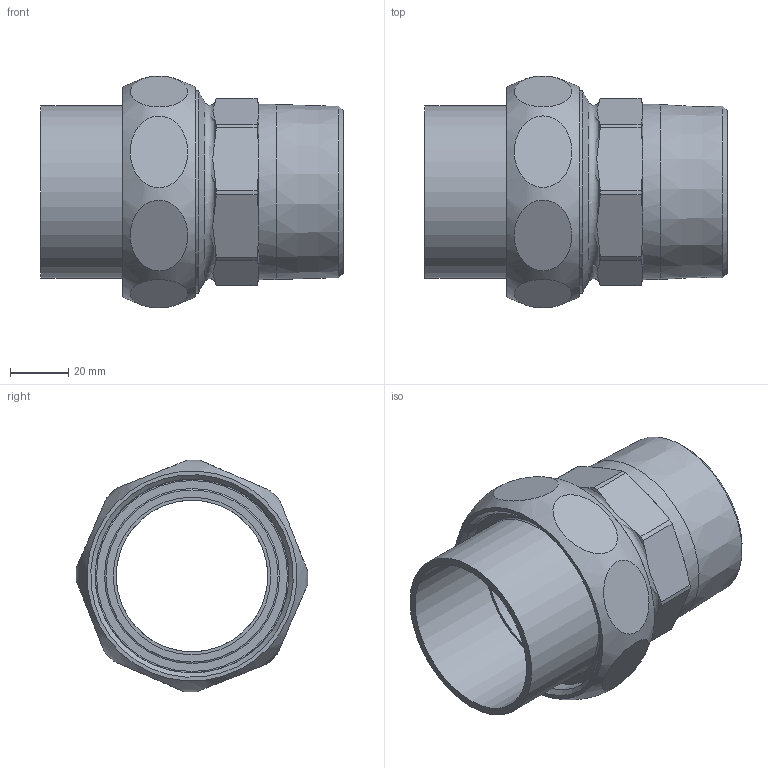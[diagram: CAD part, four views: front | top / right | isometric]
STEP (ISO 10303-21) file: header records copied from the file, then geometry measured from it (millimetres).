
FILE_DESCRIPTION(/* description */ (''),/* implementation_level */ '2;1');
FILE_NAME(/* name */ '\\lg50011\SANHA_LEGNICA\Engineering\Public\RYSUNKI\SANHA POLSKA\4343\Inventor\stp\14343542.stp',/* time_stamp */ '2021-10-06T07:28:56+02:00',/* author */ ('gomulka'),/* organization */ (''),/* preprocessor_version */ 'ST-DEVELOPER v18.1',/* originating_system */ 'Autodesk Inventor 2021',/* authorisation */ '');
FILE_SCHEMA (('AUTOMOTIVE_DESIGN { 1 0 10303 214 3 1 1 }'));
Length unit declared in the file: millimetre
Products named in the file (4): 14343542; 14381_54-238(2); R14374_238(2); 14386g_2-238(0)
Assembly tree (3 placements, depth 2):
  14343542
    14381_54-238(2)
    R14374_238(2)
    14386g_2-238(0)
Bounding box: 103.61 x 79.46 x 79.46 mm (x, y, z)
Volume: 109595 mm3; surface area: 56362.7 mm2
Topology: 3 solids, 3 shells, 78 faces, 212 edges, 151 vertices
Faces by surface type: plane 34, cone 22, cylinder 18, torus 3, bspline 1
Full cylindrical faces by diameter (mm): 52 x2, 54 x1, 59 x1, 60.055 x1, 60.5 x1, 64.5 x1, 65.5 x1, 66.44 x1, 69.398 x1
Entity records: 3326 total; most frequent: CARTESIAN_POINT 1200, DIRECTION 432, ORIENTED_EDGE 424, EDGE_CURVE 212, AXIS2_PLACEMENT_3D 188, VERTEX_POINT 151, CIRCLE 104, EDGE_LOOP 95
